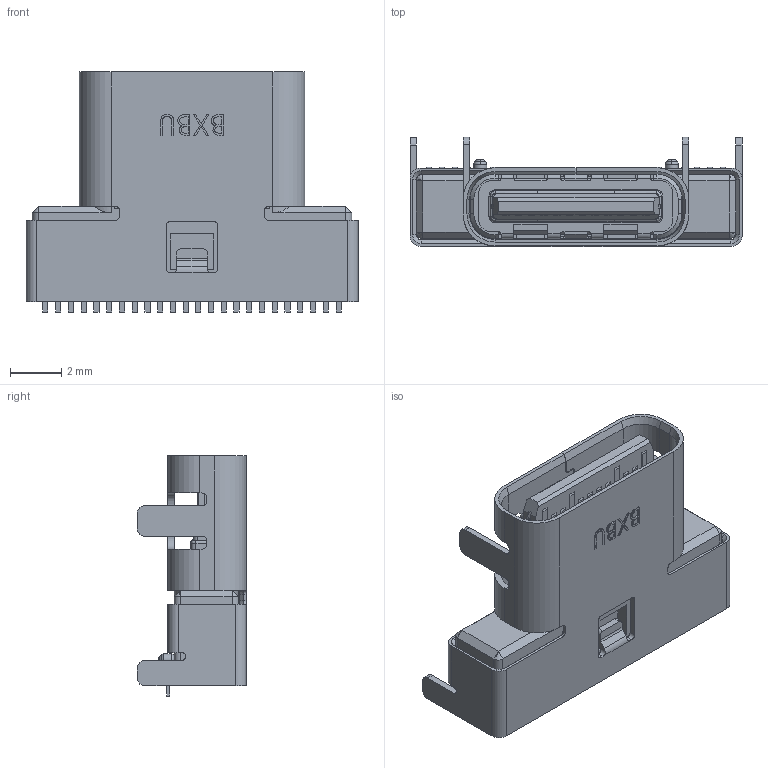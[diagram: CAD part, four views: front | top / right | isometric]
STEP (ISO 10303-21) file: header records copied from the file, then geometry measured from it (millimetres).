
FILE_DESCRIPTION (( 'STEP AP214' ), '1' );
FILE_NAME ('U5390-24PN9.0L.STEP', '2026-06-01T02:38:17', ( '' ), ( '' ), 'SwSTEP 2.0', 'SolidWorks 2024', '' );
FILE_SCHEMA (( 'AUTOMOTIVE_DESIGN' ));
Length unit declared in the file: millimetre
Products named in the file (1): U5390-24PN9.0L
Bounding box: 13 x 4.29 x 9.4 mm (x, y, z)
Volume: 200.9 mm3; surface area: 740 mm2
Topology: 3 solids, 3 shells, 987 faces, 2841 edges, 1860 vertices
Faces by surface type: plane 634, cylinder 272, bspline 33, cone 28, torus 20
Entity records: 33907 total; most frequent: CARTESIAN_POINT 7945, ORIENTED_EDGE 5674, DIRECTION 5154, EDGE_CURVE 2837, LINE 2104, VECTOR 2104, VERTEX_POINT 1860, AXIS2_PLACEMENT_3D 1525
